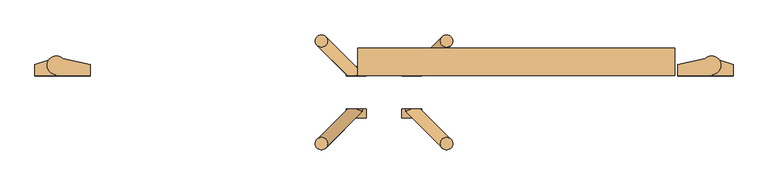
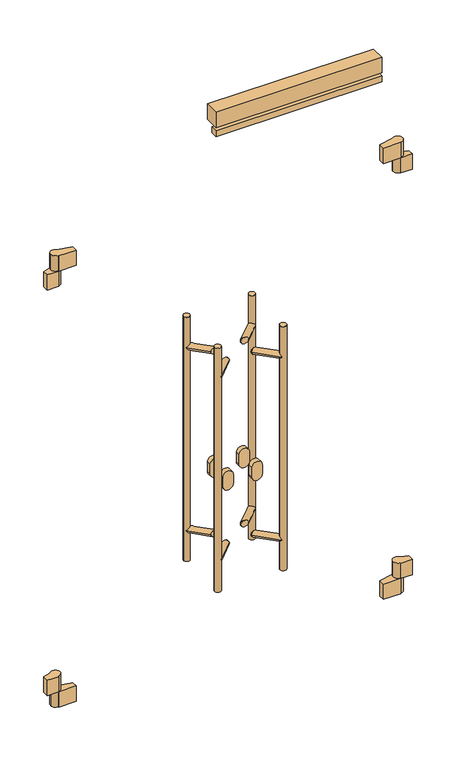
"""IFC4 building model written with IfcOpenShell, lengths in millimetres: door geometry, Alumark_фурнитура двупольной двери S54 : Alumark_фурнитура двупольной двери S54."""

from ifc_helpers import new_model, si_unit, point, frame, frame_2d, origin, place, context, project, spatial, polyline, circle_curve, ellipse_curve, trimmed, segment, composite_curve, outline, extrude, source, transform, mapped, element, save
from ifc_brep_helpers import plane_surface, cylinder_surface, advanced_brep


def door_67dd0984(model_context):
    return source(origin(), model_context, "Body", "SolidModel", [
        advanced_brep(
        [(-63.0, 17.0, 400.0), (-48.0, 2.0, 400.0), (-48.0, 0.0, 400.0), (-13.0, 0.0, 400.0), (-13.0, 18.0, 400.0), (-35.8866516, 25.846852, 400.0), (-103.0, 0.0, 300.0), (-103.0, 18.0, 300.0), (-58.5040029, 27.7082175, 300.0), (-33.0, 17.0, 300.0), (-48.0, 2.0, 300.0), (-48.0, 0.0, 300.0), (-33.0, 17.0, 350.0), (-48.0, 2.0, 350.0), (-63.0, 17.0, 350.0), (-48.0, 2.0, 350.0), (-58.5040029, 27.7082175, 350.0), (-35.8866516, 25.846852, 350.0), (-103.0, 0.0, 350.0), (-48.0, 0.0, 350.0), (-103.0, 18.0, 350.0), (-13.0, 18.0, 350.0), (-13.0, 0.0, 350.0)],
        [
            (0, 1, circle_curve(frame((-48.0, 17.0, 400.0), z_axis=(0.0, 0.0, 1.0), x_axis=(1.0, 0.0, 0.0)), 15.0)),
            (1, 2),
            (2, 3),
            (3, 4),
            (4, 5),
            (5, 0, circle_curve(frame((-48.0, 17.0, 400.0), z_axis=(0.0, 0.0, 1.0), x_axis=(1.0, 0.0, 0.0)), 15.0)),
            (6, 7),
            (7, 8),
            (8, 9, circle_curve(frame((-48.0, 17.0, 300.0), z_axis=(0.0, 0.0, -1.0), x_axis=(1.0, 0.0, 0.0)), 15.0)),
            (9, 10, circle_curve(frame((-48.0, 17.0, 300.0), z_axis=(0.0, 0.0, -1.0), x_axis=(1.0, 0.0, 0.0)), 15.0)),
            (10, 11),
            (11, 6),
            (9, 12),
            (12, 13, circle_curve(frame((-48.0, 17.0, 350.0), z_axis=(0.0, 0.0, -1.0), x_axis=(1.0, 0.0, 0.0)), 15.0)),
            (13, 10),
            (0, 14),
            (14, 15, circle_curve(frame((-48.0, 17.0, 350.0), z_axis=(0.0, 0.0, 1.0), x_axis=(1.0, 0.0, 0.0)), 15.0)),
            (15, 1),
            (8, 16),
            (16, 14, circle_curve(frame((-48.0, 17.0, 350.0), z_axis=(0.0, 0.0, 1.0), x_axis=(1.0, 0.0, 0.0)), 15.0)),
            (5, 17),
            (17, 12, circle_curve(frame((-48.0, 17.0, 350.0), z_axis=(0.0, 0.0, -1.0), x_axis=(1.0, 0.0, 0.0)), 15.0)),
            (18, 19),
            (19, 15),
            (16, 20),
            (20, 18),
            (18, 6),
            (11, 19),
            (13, 19),
            (7, 20),
            (21, 22),
            (22, 19),
            (17, 21),
            (19, 2),
            (22, 3),
            (21, 4),
        ],
        [
            plane_surface(frame((-33.0, 17.0, 400.0), z_axis=(0.0, 0.0, 1.0), x_axis=(0.0, 1.0, 0.0))),
            plane_surface(frame((-33.0, 17.0, 300.0), z_axis=(0.0, 0.0, -1.0), x_axis=(0.0, -1.0, 0.0))),
            cylinder_surface(frame((-48.0, 17.0, 300.0), z_axis=(0.0, 0.0, 1.0), x_axis=(1.0, 0.0, 0.0)), 15.0),
            plane_surface(frame((-48.0, 0.0, 350.0), z_axis=(0.0, 0.0, 1.0), x_axis=(1.0, 0.0, 0.0))),
            plane_surface(frame((-103.0, 0.0, 350.0), z_axis=(0.0, -1.0, 0.0), x_axis=(0.0, 0.0, -1.0))),
            plane_surface(frame((-48.0, 0.0, 350.0), z_axis=(1.0, 0.0, 0.0), x_axis=(0.0, 0.0, -1.0))),
            plane_surface(frame((-48.0, 30.0, 350.0), z_axis=(-0.2131670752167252, 0.9770157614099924, 0.0), x_axis=(0.0, 0.0, -1.0))),
            plane_surface(frame((-103.0, 18.0, 350.0), z_axis=(-1.0, 0.0, 0.0), x_axis=(0.0, 0.0, -1.0))),
            plane_surface(frame((-48.0, 0.0, 350.0), z_axis=(0.0, 0.0, -1.0), x_axis=(0.0, 1.0, 0.0))),
            plane_surface(frame((-48.0, 30.0, 400.0), z_axis=(-1.0, 0.0, 0.0), x_axis=(0.0, 0.0, -1.0))),
            plane_surface(frame((-48.0, 0.0, 400.0), z_axis=(0.0, -1.0, 0.0), x_axis=(0.0, 0.0, -1.0))),
            plane_surface(frame((-13.0, 0.0, 400.0), z_axis=(1.0, 0.0, 0.0), x_axis=(0.0, 0.0, -1.0))),
            plane_surface(frame((-13.0, 18.0, 400.0), z_axis=(0.32432432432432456, 0.9459459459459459, 0.0), x_axis=(0.0, 0.0, -1.0))),
        ],
        [
            (0, [[1, 2, 3, 4, 5, 6]]),
            (1, [[7, 8, 9, 10, 11, 12]]),
            (2, [[-10, 13, 14, 15]]),
            (2, [[16, 17, 18, -1]]),
            (2, [[-9, 19, 20, -16, -6, 21, 22, -13]]),
            (3, [[23, 24, -17, -20, 25, 26]]),
            (4, [[-23, 27, -12, 28]]),
            (5, [[-28, -11, -15, 29]]),
            (6, [[30, -25, -19, -8]]),
            (7, [[-26, -30, -7, -27]]),
            (8, [[31, 32, -29, -14, -22, 33]]),
            (9, [[34, -2, -18, -24]]),
            (10, [[-3, -34, -32, 35]]),
            (11, [[-4, -35, -31, 36]]),
            (12, [[-36, -33, -21, -5]]),
        ],
    ),
        advanced_brep(
        [(-1112.0, 2.0, 400.0), (-1097.0, 17.0, 400.0), (-1124.1133484, 25.846852, 400.0), (-1147.0, 18.0, 400.0), (-1147.0, 0.0, 400.0), (-1112.0, 0.0, 400.0), (-1057.0, 0.0, 300.0), (-1112.0, 0.0, 300.0), (-1112.0, 2.0, 300.0), (-1127.0, 17.0, 300.0), (-1101.4959971, 27.7082175, 300.0), (-1057.0, 18.0, 300.0), (-1112.0, 2.0, 350.0), (-1127.0, 17.0, 350.0), (-1097.0, 17.0, 350.0), (-1112.0, 2.0, 350.0), (-1124.1133484, 25.846852, 350.0), (-1101.4959971, 27.7082175, 350.0), (-1057.0, 0.0, 350.0), (-1057.0, 18.0, 350.0), (-1112.0, 0.0, 350.0), (-1147.0, 0.0, 350.0), (-1147.0, 18.0, 350.0)],
        [
            (0, 1, circle_curve(frame((-1112.0, 17.0, 400.0), z_axis=(0.0, 0.0, 1.0), x_axis=(1.0, 0.0, 0.0)), 15.0)),
            (1, 2, circle_curve(frame((-1112.0, 17.0, 400.0), z_axis=(0.0, 0.0, 1.0), x_axis=(1.0, 0.0, 0.0)), 15.0)),
            (2, 3),
            (3, 4),
            (4, 5),
            (5, 0),
            (6, 7),
            (7, 8),
            (8, 9, circle_curve(frame((-1112.0, 17.0, 300.0), z_axis=(0.0, 0.0, -1.0), x_axis=(1.0, 0.0, 0.0)), 15.0)),
            (9, 10, circle_curve(frame((-1112.0, 17.0, 300.0), z_axis=(0.0, 0.0, -1.0), x_axis=(1.0, 0.0, 0.0)), 15.0)),
            (10, 11),
            (11, 6),
            (8, 12),
            (12, 13, circle_curve(frame((-1112.0, 17.0, 350.0), z_axis=(0.0, 0.0, -1.0), x_axis=(1.0, 0.0, 0.0)), 15.0)),
            (13, 9),
            (14, 1),
            (0, 15),
            (15, 14, circle_curve(frame((-1112.0, 17.0, 350.0), z_axis=(0.0, 0.0, 1.0), x_axis=(1.0, 0.0, 0.0)), 15.0)),
            (13, 16, circle_curve(frame((-1112.0, 17.0, 350.0), z_axis=(0.0, 0.0, -1.0), x_axis=(1.0, 0.0, 0.0)), 15.0)),
            (16, 2),
            (14, 17, circle_curve(frame((-1112.0, 17.0, 350.0), z_axis=(0.0, 0.0, 1.0), x_axis=(1.0, 0.0, 0.0)), 15.0)),
            (17, 10),
            (18, 19),
            (19, 17),
            (15, 20),
            (20, 18),
            (18, 6),
            (11, 19),
            (7, 20),
            (20, 12),
            (21, 22),
            (22, 16),
            (20, 21),
            (4, 21),
            (20, 5),
            (22, 3),
        ],
        [
            plane_surface(frame((-33.0, 17.0, 400.0), z_axis=(0.0, 0.0, 1.0), x_axis=(0.0, 1.0, 0.0))),
            plane_surface(frame((-33.0, 17.0, 300.0), z_axis=(0.0, 0.0, -1.0), x_axis=(0.0, -1.0, 0.0))),
            cylinder_surface(frame((-1112.0, 17.0, 0.0), z_axis=(0.0, 0.0, 1.0), x_axis=(1.0, 0.0, 0.0)), 15.0),
            plane_surface(frame((-48.0, 0.0, 350.0), z_axis=(0.0, 0.0, 1.0), x_axis=(1.0, 0.0, 0.0))),
            plane_surface(frame((-1057.0, 0.0, 350.0), z_axis=(1.0, 0.0, 0.0), x_axis=(0.0, 0.0, -1.0))),
            plane_surface(frame((-1057.0, 18.0, 350.0), z_axis=(0.2131670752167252, 0.9770157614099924, 0.0), x_axis=(0.0, 0.0, -1.0))),
            plane_surface(frame((-1112.0, 30.0, 350.0), z_axis=(-1.0, 0.0, 0.0), x_axis=(0.0, 0.0, -1.0))),
            plane_surface(frame((-1112.0, 0.0, 350.0), z_axis=(0.0, -1.0, 0.0), x_axis=(0.0, 0.0, -1.0))),
            plane_surface(frame((-48.0, 0.0, 350.0), z_axis=(0.0, 0.0, -1.0), x_axis=(0.0, 1.0, 0.0))),
            plane_surface(frame((-1147.0, 0.0, 400.0), z_axis=(0.0, -1.0, 0.0), x_axis=(0.0, 0.0, -1.0))),
            plane_surface(frame((-1112.0, 0.0, 400.0), z_axis=(1.0, 0.0, 0.0), x_axis=(0.0, 0.0, -1.0))),
            plane_surface(frame((-1112.0, 30.0, 400.0), z_axis=(-0.3243243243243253, 0.9459459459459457, 0.0), x_axis=(0.0, 0.0, -1.0))),
            plane_surface(frame((-1147.0, 18.0, 400.0), z_axis=(-1.0, 0.0, 0.0), x_axis=(0.0, 0.0, -1.0))),
        ],
        [
            (0, [[1, 2, 3, 4, 5, 6]]),
            (1, [[7, 8, 9, 10, 11, 12]]),
            (2, [[-9, 13, 14, 15]]),
            (2, [[16, -1, 17, 18]]),
            (2, [[-10, -15, 19, 20, -2, -16, 21, 22]]),
            (3, [[23, 24, -21, -18, 25, 26]]),
            (4, [[-23, 27, -12, 28]]),
            (5, [[-28, -11, -22, -24]]),
            (6, [[29, 30, -13, -8]]),
            (7, [[-26, -29, -7, -27]]),
            (8, [[31, 32, -19, -14, -30, 33]]),
            (9, [[-5, 34, -33, 35]]),
            (10, [[-35, -25, -17, -6]]),
            (11, [[36, -3, -20, -32]]),
            (12, [[-4, -36, -31, -34]]),
        ],
    ),
        advanced_brep(
        [(-103.0, 0.0, 1780.0), (-48.0, 0.0, 1780.0), (-48.0, 2.0, 1780.0), (-33.0, 17.0, 1780.0), (-58.5040029, 27.7082175, 1780.0), (-103.0, 18.0, 1780.0), (-63.0, 17.0, 1680.0), (-35.8866516, 25.846852, 1680.0), (-13.0, 18.0, 1680.0), (-13.0, 0.0, 1680.0), (-48.0, 0.0, 1680.0), (-48.0, 2.0, 1680.0), (-48.0, 2.0, 1730.0), (-33.0, 17.0, 1730.0), (-63.0, 17.0, 1730.0), (-48.0, 2.0, 1730.0), (-35.8866516, 25.846852, 1730.0), (-58.5040029, 27.7082175, 1730.0), (-103.0, 0.0, 1730.0), (-103.0, 18.0, 1730.0), (-48.0, 0.0, 1730.0), (-13.0, 0.0, 1730.0), (-13.0, 18.0, 1730.0)],
        [
            (0, 1),
            (1, 2),
            (2, 3, circle_curve(frame((-48.0, 17.0, 1780.0), z_axis=(0.0, 0.0, 1.0), x_axis=(1.0, 0.0, 0.0)), 15.0)),
            (3, 4, circle_curve(frame((-48.0, 17.0, 1780.0), z_axis=(0.0, 0.0, 1.0), x_axis=(1.0, 0.0, 0.0)), 15.0)),
            (4, 5),
            (5, 0),
            (6, 7, circle_curve(frame((-48.0, 17.0, 1680.0), z_axis=(0.0, 0.0, -1.0), x_axis=(1.0, 0.0, 0.0)), 15.0)),
            (7, 8),
            (8, 9),
            (9, 10),
            (10, 11),
            (11, 6, circle_curve(frame((-48.0, 17.0, 1680.0), z_axis=(0.0, 0.0, -1.0), x_axis=(1.0, 0.0, 0.0)), 15.0)),
            (2, 12),
            (12, 13, circle_curve(frame((-48.0, 17.0, 1730.0), z_axis=(0.0, 0.0, 1.0), x_axis=(1.0, 0.0, 0.0)), 15.0)),
            (13, 3),
            (14, 6),
            (11, 15),
            (15, 14, circle_curve(frame((-48.0, 17.0, 1730.0), z_axis=(0.0, 0.0, -1.0), x_axis=(1.0, 0.0, 0.0)), 15.0)),
            (13, 16, circle_curve(frame((-48.0, 17.0, 1730.0), z_axis=(0.0, 0.0, 1.0), x_axis=(1.0, 0.0, 0.0)), 15.0)),
            (16, 7),
            (14, 17, circle_curve(frame((-48.0, 17.0, 1730.0), z_axis=(0.0, 0.0, -1.0), x_axis=(1.0, 0.0, 0.0)), 15.0)),
            (17, 4),
            (18, 19),
            (19, 17),
            (15, 20),
            (20, 18),
            (20, 1),
            (0, 18),
            (20, 12),
            (19, 5),
            (20, 21),
            (21, 22),
            (22, 16),
            (10, 20),
            (9, 21),
            (8, 22),
        ],
        [
            plane_surface(frame((-33.0, 17.0, 1780.0), z_axis=(0.0, 0.0, 1.0), x_axis=(0.0, 1.0, 0.0))),
            plane_surface(frame((-33.0, 17.0, 1680.0), z_axis=(0.0, 0.0, -1.0), x_axis=(0.0, -1.0, 0.0))),
            cylinder_surface(frame((-48.0, 17.0, 1680.0), z_axis=(0.0, 0.0, 1.0), x_axis=(1.0, 0.0, 0.0)), 15.0),
            plane_surface(frame((-48.0, 0.0, 1730.0), z_axis=(0.0, 0.0, -1.0), x_axis=(-1.0, 0.0, 0.0))),
            plane_surface(frame((-103.0, 0.0, 1780.0), z_axis=(0.0, -1.0, 0.0), x_axis=(0.0, 0.0, -1.0))),
            plane_surface(frame((-48.0, 0.0, 1780.0), z_axis=(1.0, 0.0, 0.0), x_axis=(0.0, 0.0, -1.0))),
            plane_surface(frame((-48.0, 30.0, 1780.0), z_axis=(-0.2131670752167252, 0.9770157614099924, 0.0), x_axis=(0.0, 0.0, -1.0))),
            plane_surface(frame((-103.0, 18.0, 1780.0), z_axis=(-1.0, 0.0, 0.0), x_axis=(0.0, 0.0, -1.0))),
            plane_surface(frame((-48.0, 0.0, 1730.0), z_axis=(0.0, 0.0, 1.0), x_axis=(0.0, -1.0, 0.0))),
            plane_surface(frame((-48.0, 30.0, 1730.0), z_axis=(-1.0, 0.0, 0.0), x_axis=(0.0, 0.0, -1.0))),
            plane_surface(frame((-48.0, 0.0, 1730.0), z_axis=(0.0, -1.0, 0.0), x_axis=(0.0, 0.0, -1.0))),
            plane_surface(frame((-13.0, 0.0, 1730.0), z_axis=(1.0, 0.0, 0.0), x_axis=(0.0, 0.0, -1.0))),
            plane_surface(frame((-13.0, 18.0, 1730.0), z_axis=(0.3243243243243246, 0.9459459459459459, 0.0), x_axis=(0.0, 0.0, -1.0))),
        ],
        [
            (0, [[1, 2, 3, 4, 5, 6]]),
            (1, [[7, 8, 9, 10, 11, 12]]),
            (2, [[-3, 13, 14, 15]]),
            (2, [[16, -12, 17, 18]]),
            (2, [[-4, -15, 19, 20, -7, -16, 21, 22]]),
            (3, [[23, 24, -21, -18, 25, 26]]),
            (4, [[-26, 27, -1, 28]]),
            (5, [[-27, 29, -13, -2]]),
            (6, [[30, -5, -22, -24]]),
            (7, [[-23, -28, -6, -30]]),
            (8, [[31, 32, 33, -19, -14, -29]]),
            (9, [[34, -25, -17, -11]]),
            (10, [[-10, 35, -31, -34]]),
            (11, [[-9, 36, -32, -35]]),
            (12, [[-36, -8, -20, -33]]),
        ],
    ),
        advanced_brep(
        [(-1057.0, 0.0, 1780.0), (-1057.0, 18.0, 1780.0), (-1101.4959971, 27.7082175, 1780.0), (-1127.0, 17.0, 1780.0), (-1112.0, 2.0, 1780.0), (-1112.0, 0.0, 1780.0), (-1124.1133484, 25.846852, 1680.0), (-1097.0, 17.0, 1680.0), (-1112.0, 2.0, 1680.0), (-1112.0, 0.0, 1680.0), (-1147.0, 0.0, 1680.0), (-1147.0, 18.0, 1680.0), (-1127.0, 17.0, 1730.0), (-1112.0, 2.0, 1730.0), (-1097.0, 17.0, 1730.0), (-1112.0, 2.0, 1730.0), (-1101.4959971, 27.7082175, 1730.0), (-1124.1133484, 25.846852, 1730.0), (-1057.0, 0.0, 1730.0), (-1112.0, 0.0, 1730.0), (-1057.0, 18.0, 1730.0), (-1147.0, 0.0, 1730.0), (-1147.0, 18.0, 1730.0)],
        [
            (0, 1),
            (1, 2),
            (2, 3, circle_curve(frame((-1112.0, 17.0, 1780.0), z_axis=(0.0, 0.0, 1.0), x_axis=(1.0, 0.0, 0.0)), 15.0)),
            (3, 4, circle_curve(frame((-1112.0, 17.0, 1780.0), z_axis=(0.0, 0.0, 1.0), x_axis=(1.0, 0.0, 0.0)), 15.0)),
            (4, 5),
            (5, 0),
            (6, 7, circle_curve(frame((-1112.0, 17.0, 1680.0), z_axis=(0.0, 0.0, -1.0), x_axis=(1.0, 0.0, 0.0)), 15.0)),
            (7, 8, circle_curve(frame((-1112.0, 17.0, 1680.0), z_axis=(0.0, 0.0, -1.0), x_axis=(1.0, 0.0, 0.0)), 15.0)),
            (8, 9),
            (9, 10),
            (10, 11),
            (11, 6),
            (3, 12),
            (12, 13, circle_curve(frame((-1112.0, 17.0, 1730.0), z_axis=(0.0, 0.0, 1.0), x_axis=(1.0, 0.0, 0.0)), 15.0)),
            (13, 4),
            (7, 14),
            (14, 15, circle_curve(frame((-1112.0, 17.0, 1730.0), z_axis=(0.0, 0.0, -1.0), x_axis=(1.0, 0.0, 0.0)), 15.0)),
            (15, 8),
            (2, 16),
            (16, 14, circle_curve(frame((-1112.0, 17.0, 1730.0), z_axis=(0.0, 0.0, -1.0), x_axis=(1.0, 0.0, 0.0)), 15.0)),
            (6, 17),
            (17, 12, circle_curve(frame((-1112.0, 17.0, 1730.0), z_axis=(0.0, 0.0, 1.0), x_axis=(1.0, 0.0, 0.0)), 15.0)),
            (18, 19),
            (19, 15),
            (16, 20),
            (20, 18),
            (20, 1),
            (0, 18),
            (19, 5),
            (13, 19),
            (21, 19),
            (17, 22),
            (22, 21),
            (9, 19),
            (21, 10),
            (11, 22),
        ],
        [
            plane_surface(frame((-33.0, 17.0, 1780.0), z_axis=(0.0, 0.0, 1.0), x_axis=(0.0, 1.0, 0.0))),
            plane_surface(frame((-33.0, 17.0, 1680.0), z_axis=(0.0, 0.0, -1.0), x_axis=(0.0, -1.0, 0.0))),
            cylinder_surface(frame((-1112.0, 17.0, 0.0), z_axis=(0.0, 0.0, 1.0), x_axis=(1.0, 0.0, 0.0)), 15.0),
            plane_surface(frame((-48.0, 0.0, 1730.0), z_axis=(0.0, 0.0, -1.0), x_axis=(-1.0, 0.0, 0.0))),
            plane_surface(frame((-1057.0, 0.0, 1780.0), z_axis=(1.0, 0.0, 0.0), x_axis=(0.0, 0.0, -1.0))),
            plane_surface(frame((-1057.0, 18.0, 1780.0), z_axis=(0.21316707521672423, 0.9770157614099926, 0.0), x_axis=(0.0, 0.0, -1.0))),
            plane_surface(frame((-1112.0, 30.0, 1780.0), z_axis=(-1.0, 0.0, 0.0), x_axis=(0.0, 0.0, -1.0))),
            plane_surface(frame((-1112.0, 0.0, 1780.0), z_axis=(0.0, -1.0, 0.0), x_axis=(0.0, 0.0, -1.0))),
            plane_surface(frame((-48.0, 0.0, 1730.0), z_axis=(0.0, 0.0, 1.0), x_axis=(0.0, -1.0, 0.0))),
            plane_surface(frame((-1147.0, 0.0, 1730.0), z_axis=(0.0, -1.0, 0.0), x_axis=(0.0, 0.0, -1.0))),
            plane_surface(frame((-1112.0, 0.0, 1730.0), z_axis=(1.0, 0.0, 0.0), x_axis=(0.0, 0.0, -1.0))),
            plane_surface(frame((-1112.0, 30.0, 1730.0), z_axis=(-0.32432432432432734, 0.9459459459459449, 0.0), x_axis=(0.0, 0.0, -1.0))),
            plane_surface(frame((-1147.0, 18.0, 1730.0), z_axis=(-1.0, 0.0, 0.0), x_axis=(0.0, 0.0, -1.0))),
        ],
        [
            (0, [[1, 2, 3, 4, 5, 6]]),
            (1, [[7, 8, 9, 10, 11, 12]]),
            (2, [[-4, 13, 14, 15]]),
            (2, [[16, 17, 18, -8]]),
            (2, [[-3, 19, 20, -16, -7, 21, 22, -13]]),
            (3, [[23, 24, -17, -20, 25, 26]]),
            (4, [[-26, 27, -1, 28]]),
            (5, [[-27, -25, -19, -2]]),
            (6, [[29, -5, -15, 30]]),
            (7, [[-23, -28, -6, -29]]),
            (8, [[31, -30, -14, -22, 32, 33]]),
            (9, [[-10, 34, -31, 35]]),
            (10, [[-34, -9, -18, -24]]),
            (11, [[36, -32, -21, -12]]),
            (12, [[-11, -35, -33, -36]]),
        ],
    ),
        extrude(outline(polyline([(-108.0, 0.0), (-623.0, 0.0), (-623.0, 20.0), (-108.0, 20.0), (-108.0, 0.0)])), frame((0.0, 0.0, 2000.0), z_axis=(0.0, 0.0, 1.0), x_axis=(1.0, 0.0, 0.0)), (0.0, 0.0, 1.0), 20.0),
        extrude(outline(polyline([(-108.0, 0.0), (-623.0, 0.0), (-623.0, 45.0), (-108.0, 45.0), (-108.0, 0.0)])), frame((0.0, 0.0, 2030.0), z_axis=(0.0, 0.0, 1.0), x_axis=(1.0, 0.0, 0.0)), (0.0, 0.0, 1.0), 50.0),
        advanced_brep(
        [(-488.4314575, 56.5685425, 1400.0), (-468.4314575, 56.5685425, 1400.0), (-488.4314575, 56.5685425, 600.0), (-468.4314575, 56.5685425, 600.0), (-535.0, 0.0, 710.0), (-545.0, 0.0, 700.0), (-535.0, 0.0, 690.0), (-520.8578644, 0.0, 700.0), (-535.0, 0.0, 1310.0), (-545.0, 0.0, 1300.0), (-535.0, 0.0, 1290.0), (-520.8578644, 0.0, 1300.0), (-545.0, 4.1421356, 700.0), (-545.0, 4.1421356, 1300.0), (-485.5025253, 63.6396103, 700.0), (-471.3603897, 49.4974747, 700.0), (-488.4314575, 56.5685425, 707.0710678), (-488.4314575, 56.5685425, 692.9289322), (-485.5025253, 63.6396103, 1300.0), (-471.3603897, 49.4974747, 1300.0), (-488.4314575, 56.5685425, 1307.0710678), (-488.4314575, 56.5685425, 1292.9289322)],
        [
            (0, 1, circle_curve(frame((-478.4314575, 56.5685425, 1400.0), z_axis=(0.0, 0.0, 1.0), x_axis=(1.0, 0.0, 0.0)), 10.0)),
            (1, 0, circle_curve(frame((-478.4314575, 56.5685425, 1400.0), z_axis=(0.0, 0.0, 1.0), x_axis=(1.0, 0.0, 0.0)), 10.0)),
            (2, 3, circle_curve(frame((-478.4314575, 56.5685425, 600.0), z_axis=(0.0, 0.0, -1.0), x_axis=(1.0, 0.0, 0.0)), 10.0)),
            (3, 2, circle_curve(frame((-478.4314575, 56.5685425, 600.0), z_axis=(0.0, 0.0, -1.0), x_axis=(1.0, 0.0, 0.0)), 10.0)),
            (4, 5, circle_curve(frame((-535.0, 0.0, 700.0), z_axis=(0.0, -1.0, 0.0), x_axis=(-1.0, 0.0, 0.0)), 10.0)),
            (5, 6, circle_curve(frame((-535.0, 0.0, 700.0), z_axis=(0.0, -1.0, 0.0), x_axis=(-1.0, 0.0, 0.0)), 10.0)),
            (6, 7, ellipse_curve(frame((-535.0, 0.0, 700.0), z_axis=(0.0, -1.0, 0.0), x_axis=(-1.0, 0.0, 0.0)), 14.1421356, 10.0)),
            (7, 4, ellipse_curve(frame((-535.0, 0.0, 700.0), z_axis=(0.0, -1.0, 0.0), x_axis=(-1.0, 0.0, 0.0)), 14.1421356, 10.0)),
            (8, 9, circle_curve(frame((-535.0, 0.0, 1300.0), z_axis=(0.0, -1.0, 0.0), x_axis=(-1.0, 0.0, 0.0)), 10.0)),
            (9, 10, circle_curve(frame((-535.0, 0.0, 1300.0), z_axis=(0.0, -1.0, 0.0), x_axis=(-1.0, 0.0, 0.0)), 10.0)),
            (10, 11, ellipse_curve(frame((-535.0, 0.0, 1300.0), z_axis=(0.0, -1.0, 0.0), x_axis=(-1.0, 0.0, 0.0)), 14.1421356, 10.0)),
            (11, 8, ellipse_curve(frame((-535.0, 0.0, 1300.0), z_axis=(0.0, -1.0, 0.0), x_axis=(-1.0, 0.0, 0.0)), 14.1421356, 10.0)),
            (4, 12, ellipse_curve(frame((-535.0, 0.0, 700.0), z_axis=(-0.38268343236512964, -0.9238795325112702, 0.0), x_axis=(0.9238795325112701, -0.3826834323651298, 0.0)), 10.823922, 10.0)),
            (12, 5),
            (12, 6, ellipse_curve(frame((-535.0, 0.0, 700.0), z_axis=(-0.38268343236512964, -0.9238795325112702, 0.0), x_axis=(0.9238795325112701, -0.3826834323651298, 0.0)), 10.823922, 10.0)),
            (8, 13, ellipse_curve(frame((-535.0, 0.0, 1300.0), z_axis=(-0.38268343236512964, -0.9238795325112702, 0.0), x_axis=(0.9238795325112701, -0.3826834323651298, 0.0)), 10.823922, 10.0)),
            (13, 9),
            (13, 10, ellipse_curve(frame((-535.0, 0.0, 1300.0), z_axis=(-0.38268343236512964, -0.9238795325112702, 0.0), x_axis=(0.9238795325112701, -0.3826834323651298, 0.0)), 10.823922, 10.0)),
            (14, 12),
            (7, 15),
            (15, 16, ellipse_curve(frame((-478.4314575, 56.5685425, 700.0), z_axis=(-0.5000000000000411, -0.49999999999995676, -0.707106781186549), x_axis=(-0.5000000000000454, -0.49999999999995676, 0.7071067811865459)), 14.1421356, 10.0)),
            (16, 14, ellipse_curve(frame((-478.4314575, 56.5685425, 700.0), z_axis=(-0.5000000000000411, -0.49999999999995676, -0.707106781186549), x_axis=(-0.5000000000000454, -0.49999999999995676, 0.7071067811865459)), 14.1421356, 10.0)),
            (14, 17, ellipse_curve(frame((-478.4314575, 56.5685425, 700.0), z_axis=(-0.5000000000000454, -0.49999999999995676, 0.7071067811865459), x_axis=(-0.5000000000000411, -0.49999999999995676, -0.7071067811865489)), 14.1421356, 10.0)),
            (17, 15, ellipse_curve(frame((-478.4314575, 56.5685425, 700.0), z_axis=(-0.5000000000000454, -0.49999999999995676, 0.7071067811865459), x_axis=(-0.5000000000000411, -0.49999999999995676, -0.7071067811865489)), 14.1421356, 10.0)),
            (18, 13),
            (11, 19),
            (19, 20, ellipse_curve(frame((-478.4314575, 56.5685425, 1300.0), z_axis=(-0.5000000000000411, -0.49999999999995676, -0.707106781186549), x_axis=(-0.5000000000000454, -0.49999999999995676, 0.7071067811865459)), 14.1421356, 10.0)),
            (20, 18, ellipse_curve(frame((-478.4314575, 56.5685425, 1300.0), z_axis=(-0.5000000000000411, -0.49999999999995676, -0.707106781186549), x_axis=(-0.5000000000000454, -0.49999999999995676, 0.7071067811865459)), 14.1421356, 10.0)),
            (18, 21, ellipse_curve(frame((-478.4314575, 56.5685425, 1300.0), z_axis=(-0.5000000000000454, -0.49999999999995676, 0.7071067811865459), x_axis=(-0.5000000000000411, -0.49999999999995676, -0.7071067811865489)), 14.1421356, 10.0)),
            (21, 19, ellipse_curve(frame((-478.4314575, 56.5685425, 1300.0), z_axis=(-0.5000000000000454, -0.49999999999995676, 0.7071067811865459), x_axis=(-0.5000000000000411, -0.49999999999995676, -0.7071067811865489)), 14.1421356, 10.0)),
            (0, 20),
            (21, 16),
            (17, 2),
            (3, 1),
        ],
        [
            plane_surface(frame((-468.4314575, 56.5685425, 1400.0), z_axis=(0.0, 0.0, 1.0), x_axis=(0.0, 1.0, 0.0))),
            plane_surface(frame((-468.4314575, 56.5685425, 600.0), z_axis=(0.0, 0.0, -1.0), x_axis=(0.0, -1.0, 0.0))),
            plane_surface(frame((-675.0, 0.0, 600.0), z_axis=(0.0, -1.0, 0.0), x_axis=(0.0, 0.0, 1.0))),
            cylinder_surface(frame((-535.0, -54.0, 700.0), z_axis=(0.0, -1.0, 0.0), x_axis=(-1.0, 0.0, 0.0)), 10.0),
            cylinder_surface(frame((-535.0, -54.0, 1300.0), z_axis=(0.0, -1.0, 0.0), x_axis=(-1.0, 0.0, 0.0)), 10.0),
            cylinder_surface(frame((-535.0, 0.0, 700.0), z_axis=(-0.7071067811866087, -0.7071067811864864, 0.0), x_axis=(-0.7071067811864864, 0.7071067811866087, 0.0)), 10.0),
            cylinder_surface(frame((-535.0, 0.0, 1300.0), z_axis=(-0.7071067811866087, -0.7071067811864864, 0.0), x_axis=(-0.7071067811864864, 0.7071067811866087, 0.0)), 10.0),
            cylinder_surface(frame((-478.4314575, 56.5685425, 600.0), z_axis=(0.0, 0.0, 1.0), x_axis=(1.0, 0.0, 0.0)), 10.0),
        ],
        [
            (0, [[1, 2]]),
            (1, [[3, 4]]),
            (2, [[5, 6, 7, 8]]),
            (2, [[9, 10, 11, 12]]),
            (3, [[13, 14, -5]]),
            (3, [[-14, 15, -6]]),
            (4, [[16, 17, -9]]),
            (4, [[-17, 18, -10]]),
            (5, [[19, -13, -8, 20, 21, 22]]),
            (5, [[-19, 23, 24, -20, -7, -15]]),
            (6, [[25, -16, -12, 26, 27, 28]]),
            (6, [[-25, 29, 30, -26, -11, -18]]),
            (7, [[-1, 31, -27, -30, 32, -21, -24, 33, -4, 34]]),
            (7, [[-2, -34, -3, -33, -23, -22, -32, -29, -28, -31]]),
        ],
    ),
        advanced_brep(
        [(-488.4314575, -110.5685425, 1400.0), (-468.4314575, -110.5685425, 1400.0), (-488.4314575, -110.5685425, 600.0), (-468.4314575, -110.5685425, 600.0), (-535.0, -54.0, 710.0), (-520.8578644, -54.0, 700.0), (-535.0, -54.0, 690.0), (-545.0, -54.0, 700.0), (-535.0, -54.0, 1310.0), (-520.8578644, -54.0, 1300.0), (-535.0, -54.0, 1290.0), (-545.0, -54.0, 1300.0), (-545.0, -58.1421356, 700.0), (-485.5025253, -117.6396103, 700.0), (-488.4314575, -110.5685425, 707.0710678), (-471.3603897, -103.4974747, 700.0), (-488.4314575, -110.5685425, 692.9289322), (-545.0, -58.1421356, 1300.0), (-485.5025253, -117.6396103, 1300.0), (-488.4314575, -110.5685425, 1307.0710678), (-471.3603897, -103.4974747, 1300.0), (-488.4314575, -110.5685425, 1292.9289322)],
        [
            (0, 1, circle_curve(frame((-478.4314575, -110.5685425, 1400.0), z_axis=(0.0, 0.0, 1.0), x_axis=(1.0, 0.0, 0.0)), 10.0)),
            (1, 0, circle_curve(frame((-478.4314575, -110.5685425, 1400.0), z_axis=(0.0, 0.0, 1.0), x_axis=(1.0, 0.0, 0.0)), 10.0)),
            (2, 3, circle_curve(frame((-478.4314575, -110.5685425, 600.0), z_axis=(0.0, 0.0, -1.0), x_axis=(1.0, 0.0, 0.0)), 10.0)),
            (3, 2, circle_curve(frame((-478.4314575, -110.5685425, 600.0), z_axis=(0.0, 0.0, -1.0), x_axis=(1.0, 0.0, 0.0)), 10.0)),
            (4, 5, ellipse_curve(frame((-535.0, -54.0, 700.0), z_axis=(0.0, 1.0, 0.0), x_axis=(1.0, 0.0, 0.0)), 14.1421356, 10.0)),
            (5, 6, ellipse_curve(frame((-535.0, -54.0, 700.0), z_axis=(0.0, 1.0, 0.0), x_axis=(1.0, 0.0, 0.0)), 14.1421356, 10.0)),
            (6, 7, circle_curve(frame((-535.0, -54.0, 700.0), z_axis=(0.0, 1.0, 0.0), x_axis=(-1.0, 0.0, 0.0)), 10.0)),
            (7, 4, circle_curve(frame((-535.0, -54.0, 700.0), z_axis=(0.0, 1.0, 0.0), x_axis=(-1.0, 0.0, 0.0)), 10.0)),
            (8, 9, ellipse_curve(frame((-535.0, -54.0, 1300.0), z_axis=(0.0, 1.0, 0.0), x_axis=(1.0, 0.0, 0.0)), 14.1421356, 10.0)),
            (9, 10, ellipse_curve(frame((-535.0, -54.0, 1300.0), z_axis=(0.0, 1.0, 0.0), x_axis=(1.0, 0.0, 0.0)), 14.1421356, 10.0)),
            (10, 11, circle_curve(frame((-535.0, -54.0, 1300.0), z_axis=(0.0, 1.0, 0.0), x_axis=(-1.0, 0.0, 0.0)), 10.0)),
            (11, 8, circle_curve(frame((-535.0, -54.0, 1300.0), z_axis=(0.0, 1.0, 0.0), x_axis=(-1.0, 0.0, 0.0)), 10.0)),
            (12, 13),
            (13, 14, ellipse_curve(frame((-478.4314575, -110.5685425, 700.0), z_axis=(-0.5000000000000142, 0.4999999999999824, -0.7071067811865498), x_axis=(0.5000000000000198, -0.49999999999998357, -0.707106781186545)), 14.1421356, 10.0)),
            (14, 15, ellipse_curve(frame((-478.4314575, -110.5685425, 700.0), z_axis=(-0.5000000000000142, 0.4999999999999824, -0.7071067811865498), x_axis=(0.5000000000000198, -0.49999999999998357, -0.707106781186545)), 14.1421356, 10.0)),
            (15, 5),
            (4, 12, ellipse_curve(frame((-535.0, -54.0, 700.0), z_axis=(0.3826834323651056, -0.9238795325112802, 0.0), x_axis=(0.9238795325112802, 0.38268343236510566, 0.0)), 10.823922, 10.0)),
            (12, 6, ellipse_curve(frame((-535.0, -54.0, 700.0), z_axis=(0.3826834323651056, -0.9238795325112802, 0.0), x_axis=(0.9238795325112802, 0.38268343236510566, 0.0)), 10.823922, 10.0)),
            (15, 16, ellipse_curve(frame((-478.4314575, -110.5685425, 700.0), z_axis=(-0.5000000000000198, 0.49999999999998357, 0.7071067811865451), x_axis=(0.5000000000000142, -0.4999999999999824, 0.7071067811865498)), 14.1421356, 10.0)),
            (16, 13, ellipse_curve(frame((-478.4314575, -110.5685425, 700.0), z_axis=(-0.5000000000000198, 0.49999999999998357, 0.7071067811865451), x_axis=(0.5000000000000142, -0.4999999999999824, 0.7071067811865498)), 14.1421356, 10.0)),
            (17, 18),
            (18, 19, ellipse_curve(frame((-478.4314575, -110.5685425, 1300.0), z_axis=(-0.5000000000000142, 0.4999999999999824, -0.7071067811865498), x_axis=(0.5000000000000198, -0.49999999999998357, -0.707106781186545)), 14.1421356, 10.0)),
            (19, 20, ellipse_curve(frame((-478.4314575, -110.5685425, 1300.0), z_axis=(-0.5000000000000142, 0.4999999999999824, -0.7071067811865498), x_axis=(0.5000000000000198, -0.49999999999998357, -0.707106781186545)), 14.1421356, 10.0)),
            (20, 9),
            (8, 17, ellipse_curve(frame((-535.0, -54.0, 1300.0), z_axis=(0.3826834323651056, -0.9238795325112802, 0.0), x_axis=(0.9238795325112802, 0.38268343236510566, 0.0)), 10.823922, 10.0)),
            (17, 10, ellipse_curve(frame((-535.0, -54.0, 1300.0), z_axis=(0.3826834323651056, -0.9238795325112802, 0.0), x_axis=(0.9238795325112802, 0.38268343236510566, 0.0)), 10.823922, 10.0)),
            (20, 21, ellipse_curve(frame((-478.4314575, -110.5685425, 1300.0), z_axis=(-0.5000000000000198, 0.49999999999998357, 0.7071067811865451), x_axis=(0.5000000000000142, -0.4999999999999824, 0.7071067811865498)), 14.1421356, 10.0)),
            (21, 18, ellipse_curve(frame((-478.4314575, -110.5685425, 1300.0), z_axis=(-0.5000000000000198, 0.49999999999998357, 0.7071067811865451), x_axis=(0.5000000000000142, -0.4999999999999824, 0.7071067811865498)), 14.1421356, 10.0)),
            (7, 12),
            (11, 17),
            (0, 19),
            (21, 14),
            (16, 2),
            (3, 1),
        ],
        [
            plane_surface(frame((-468.4314575, 56.5685425, 1400.0), z_axis=(0.0, 0.0, 1.0), x_axis=(0.0, 1.0, 0.0))),
            plane_surface(frame((-468.4314575, 56.5685425, 600.0), z_axis=(0.0, 0.0, -1.0), x_axis=(0.0, -1.0, 0.0))),
            plane_surface(frame((-485.0, -54.0, 600.0), z_axis=(0.0, 1.0, 0.0), x_axis=(0.0, 0.0, 1.0))),
            cylinder_surface(frame((-478.4314575, -110.5685425, 700.0), z_axis=(0.7071067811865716, -0.7071067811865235, 0.0), x_axis=(-0.7071067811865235, -0.7071067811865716, 0.0)), 10.0),
            cylinder_surface(frame((-478.4314575, -110.5685425, 1300.0), z_axis=(0.7071067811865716, -0.7071067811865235, 0.0), x_axis=(-0.7071067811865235, -0.7071067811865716, 0.0)), 10.0),
            cylinder_surface(frame((-535.0, -54.0, 700.0), z_axis=(0.0, -1.0, 0.0), x_axis=(-1.0, 0.0, 0.0)), 10.0),
            cylinder_surface(frame((-535.0, -54.0, 1300.0), z_axis=(0.0, -1.0, 0.0), x_axis=(-1.0, 0.0, 0.0)), 10.0),
            cylinder_surface(frame((-478.4314575, -110.5685425, 1000.0), z_axis=(0.0, 0.0, 1.0), x_axis=(1.0, 0.0, 0.0)), 10.0),
        ],
        [
            (0, [[1, 2]]),
            (1, [[3, 4]]),
            (2, [[5, 6, 7, 8]]),
            (2, [[9, 10, 11, 12]]),
            (3, [[13, 14, 15, 16, -5, 17]]),
            (3, [[-13, 18, -6, -16, 19, 20]]),
            (4, [[21, 22, 23, 24, -9, 25]]),
            (4, [[-21, 26, -10, -24, 27, 28]]),
            (5, [[-17, -8, 29]]),
            (5, [[-18, -29, -7]]),
            (6, [[-25, -12, 30]]),
            (6, [[-26, -30, -11]]),
            (7, [[-1, 31, -22, -28, 32, -14, -20, 33, -4, 34]]),
            (7, [[-2, -34, -3, -33, -19, -15, -32, -27, -23, -31]]),
        ],
    ),
        advanced_brep(
        [(-691.5685425, 56.5685425, 1400.0), (-671.5685425, 56.5685425, 1400.0), (-691.5685425, 56.5685425, 600.0), (-671.5685425, 56.5685425, 600.0), (-625.0, 0.0, 690.0), (-615.0, 0.0, 700.0), (-625.0, 0.0, 710.0), (-639.1421356, 0.0, 700.0), (-625.0, 0.0, 1290.0), (-615.0, 0.0, 1300.0), (-625.0, 0.0, 1310.0), (-639.1421356, 0.0, 1300.0), (-671.5685425, 56.5685425, 692.9289322), (-688.6396103, 49.4974747, 700.0), (-671.5685425, 56.5685425, 707.0710678), (-671.5685425, 56.5685425, 1292.9289322), (-688.6396103, 49.4974747, 1300.0), (-671.5685425, 56.5685425, 1307.0710678), (-674.4974747, 63.6396103, 1300.0), (-674.4974747, 63.6396103, 700.0), (-615.0, 4.1421356, 700.0), (-615.0, 4.1421356, 1300.0)],
        [
            (0, 1, circle_curve(frame((-681.5685425, 56.5685425, 1400.0), z_axis=(0.0, 0.0, 1.0), x_axis=(1.0, 0.0, 0.0)), 10.0)),
            (1, 0, circle_curve(frame((-681.5685425, 56.5685425, 1400.0), z_axis=(0.0, 0.0, 1.0), x_axis=(1.0, 0.0, 0.0)), 10.0)),
            (2, 3, circle_curve(frame((-681.5685425, 56.5685425, 600.0), z_axis=(0.0, 0.0, -1.0), x_axis=(1.0, 0.0, 0.0)), 10.0)),
            (3, 2, circle_curve(frame((-681.5685425, 56.5685425, 600.0), z_axis=(0.0, 0.0, -1.0), x_axis=(1.0, 0.0, 0.0)), 10.0)),
            (4, 5, circle_curve(frame((-625.0, 0.0, 700.0), z_axis=(0.0, -1.0, 0.0), x_axis=(-1.0, 0.0, 0.0)), 10.0)),
            (5, 6, circle_curve(frame((-625.0, 0.0, 700.0), z_axis=(0.0, -1.0, 0.0), x_axis=(-1.0, 0.0, 0.0)), 10.0)),
            (6, 7, ellipse_curve(frame((-625.0, 0.0, 700.0), z_axis=(0.0, -1.0, 0.0), x_axis=(1.0, 0.0, 0.0)), 14.1421356, 10.0)),
            (7, 4, ellipse_curve(frame((-625.0, 0.0, 700.0), z_axis=(0.0, -1.0, 0.0), x_axis=(1.0, 0.0, 0.0)), 14.1421356, 10.0)),
            (8, 9, circle_curve(frame((-625.0, 0.0, 1300.0), z_axis=(0.0, -1.0, 0.0), x_axis=(-1.0, 0.0, 0.0)), 10.0)),
            (9, 10, circle_curve(frame((-625.0, 0.0, 1300.0), z_axis=(0.0, -1.0, 0.0), x_axis=(-1.0, 0.0, 0.0)), 10.0)),
            (10, 11, ellipse_curve(frame((-625.0, 0.0, 1300.0), z_axis=(0.0, -1.0, 0.0), x_axis=(1.0, 0.0, 0.0)), 14.1421356, 10.0)),
            (11, 8, ellipse_curve(frame((-625.0, 0.0, 1300.0), z_axis=(0.0, -1.0, 0.0), x_axis=(1.0, 0.0, 0.0)), 14.1421356, 10.0)),
            (0, 2),
            (3, 12),
            (12, 13, ellipse_curve(frame((-681.5685425, 56.5685425, 700.0), z_axis=(-0.5000000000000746, 0.49999999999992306, -0.707106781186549), x_axis=(-0.5000000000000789, 0.49999999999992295, 0.707106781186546)), 14.1421356, 10.0)),
            (13, 14, ellipse_curve(frame((-681.5685425, 56.5685425, 700.0), z_axis=(-0.500000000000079, 0.49999999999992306, 0.7071067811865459), x_axis=(0.5000000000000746, -0.49999999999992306, 0.7071067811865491)), 14.1421356, 10.0)),
            (14, 15),
            (15, 16, ellipse_curve(frame((-681.5685425, 56.5685425, 1300.0), z_axis=(-0.5000000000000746, 0.49999999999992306, -0.707106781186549), x_axis=(-0.5000000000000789, 0.49999999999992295, 0.707106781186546)), 14.1421356, 10.0)),
            (16, 17, ellipse_curve(frame((-681.5685425, 56.5685425, 1300.0), z_axis=(-0.500000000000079, 0.49999999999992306, 0.7071067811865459), x_axis=(0.5000000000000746, -0.49999999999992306, 0.7071067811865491)), 14.1421356, 10.0)),
            (17, 1),
            (17, 18, ellipse_curve(frame((-681.5685425, 56.5685425, 1300.0), z_axis=(-0.500000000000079, 0.49999999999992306, 0.7071067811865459), x_axis=(0.5000000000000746, -0.49999999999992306, 0.7071067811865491)), 14.1421356, 10.0)),
            (18, 15, ellipse_curve(frame((-681.5685425, 56.5685425, 1300.0), z_axis=(-0.5000000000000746, 0.49999999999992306, -0.707106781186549), x_axis=(-0.5000000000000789, 0.49999999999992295, 0.707106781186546)), 14.1421356, 10.0)),
            (14, 19, ellipse_curve(frame((-681.5685425, 56.5685425, 700.0), z_axis=(-0.500000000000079, 0.49999999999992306, 0.7071067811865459), x_axis=(0.5000000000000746, -0.49999999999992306, 0.7071067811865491)), 14.1421356, 10.0)),
            (19, 12, ellipse_curve(frame((-681.5685425, 56.5685425, 700.0), z_axis=(-0.5000000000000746, 0.49999999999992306, -0.707106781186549), x_axis=(-0.5000000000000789, 0.49999999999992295, 0.707106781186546)), 14.1421356, 10.0)),
            (4, 20, ellipse_curve(frame((-625.0, 0.0, 700.0), z_axis=(0.3826834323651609, -0.9238795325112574, 0.0), x_axis=(-0.9238795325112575, -0.38268343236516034, 0.0)), 10.823922, 10.0)),
            (20, 5),
            (20, 6, ellipse_curve(frame((-625.0, 0.0, 700.0), z_axis=(0.3826834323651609, -0.9238795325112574, 0.0), x_axis=(-0.9238795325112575, -0.38268343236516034, 0.0)), 10.823922, 10.0)),
            (8, 21, ellipse_curve(frame((-625.0, 0.0, 1300.0), z_axis=(0.3826834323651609, -0.9238795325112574, 0.0), x_axis=(-0.9238795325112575, -0.38268343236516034, 0.0)), 10.823922, 10.0)),
            (21, 9),
            (21, 10, ellipse_curve(frame((-625.0, 0.0, 1300.0), z_axis=(0.3826834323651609, -0.9238795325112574, 0.0), x_axis=(-0.9238795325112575, -0.38268343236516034, 0.0)), 10.823922, 10.0)),
            (19, 20),
            (7, 13),
            (18, 21),
            (11, 16),
        ],
        [
            plane_surface(frame((-468.4314575, 56.5685425, 1400.0), z_axis=(0.0, 0.0, 1.0), x_axis=(0.0, 1.0, 0.0))),
            plane_surface(frame((-468.4314575, 56.5685425, 600.0), z_axis=(0.0, 0.0, -1.0), x_axis=(0.0, -1.0, 0.0))),
            plane_surface(frame((-675.0, 0.0, 600.0), z_axis=(0.0, -1.0, 0.0), x_axis=(0.0, 0.0, 1.0))),
            cylinder_surface(frame((-681.5685425, 56.5685425, 1000.0), z_axis=(0.0, 0.0, 1.0), x_axis=(1.0, 0.0, 0.0)), 10.0),
            cylinder_surface(frame((-625.0, -54.0, 700.0), z_axis=(0.0, -1.0, 0.0), x_axis=(-1.0, 0.0, 0.0)), 10.0),
            cylinder_surface(frame((-625.0, -54.0, 1300.0), z_axis=(0.0, -1.0, 0.0), x_axis=(-1.0, 0.0, 0.0)), 10.0),
            cylinder_surface(frame((-625.0, 0.0, 700.0), z_axis=(0.7071067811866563, -0.7071067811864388, 0.0), x_axis=(-0.7071067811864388, -0.7071067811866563, 0.0)), 10.0),
            cylinder_surface(frame((-625.0, 0.0, 1300.0), z_axis=(0.7071067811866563, -0.7071067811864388, 0.0), x_axis=(-0.7071067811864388, -0.7071067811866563, 0.0)), 10.0),
        ],
        [
            (0, [[1, 2]]),
            (1, [[3, 4]]),
            (2, [[5, 6, 7, 8]]),
            (2, [[9, 10, 11, 12]]),
            (3, [[-1, 13, -4, 14, 15, 16, 17, 18, 19, 20]]),
            (3, [[-2, -20, 21, 22, -17, 23, 24, -14, -3, -13]]),
            (4, [[25, 26, -5]]),
            (4, [[-26, 27, -6]]),
            (5, [[28, 29, -9]]),
            (5, [[-29, 30, -10]]),
            (6, [[31, -25, -8, 32, -15, -24]]),
            (6, [[-31, -23, -16, -32, -7, -27]]),
            (7, [[33, -28, -12, 34, -18, -22]]),
            (7, [[-33, -21, -19, -34, -11, -30]]),
        ],
    ),
        advanced_brep(
        [(-691.5685425, -110.5685425, 1400.0), (-671.5685425, -110.5685425, 1400.0), (-691.5685425, -110.5685425, 600.0), (-671.5685425, -110.5685425, 600.0), (-625.0, -54.0, 690.0), (-639.1421356, -54.0, 700.0), (-625.0, -54.0, 710.0), (-615.0, -54.0, 700.0), (-625.0, -54.0, 1290.0), (-639.1421356, -54.0, 1300.0), (-625.0, -54.0, 1310.0), (-615.0, -54.0, 1300.0), (-671.5685425, -110.5685425, 692.9289322), (-674.4974747, -117.6396103, 700.0), (-671.5685425, -110.5685425, 707.0710678), (-671.5685425, -110.5685425, 1292.9289322), (-674.4974747, -117.6396103, 1300.0), (-671.5685425, -110.5685425, 1307.0710678), (-688.6396103, -103.4974747, 1300.0), (-688.6396103, -103.4974747, 700.0), (-615.0, -58.1421356, 700.0), (-615.0, -58.1421356, 1300.0)],
        [
            (0, 1, circle_curve(frame((-681.5685425, -110.5685425, 1400.0), z_axis=(0.0, 0.0, 1.0), x_axis=(1.0, 0.0, 0.0)), 10.0)),
            (1, 0, circle_curve(frame((-681.5685425, -110.5685425, 1400.0), z_axis=(0.0, 0.0, 1.0), x_axis=(1.0, 0.0, 0.0)), 10.0)),
            (2, 3, circle_curve(frame((-681.5685425, -110.5685425, 600.0), z_axis=(0.0, 0.0, -1.0), x_axis=(1.0, 0.0, 0.0)), 10.0)),
            (3, 2, circle_curve(frame((-681.5685425, -110.5685425, 600.0), z_axis=(0.0, 0.0, -1.0), x_axis=(1.0, 0.0, 0.0)), 10.0)),
            (4, 5, ellipse_curve(frame((-625.0, -54.0, 700.0), z_axis=(0.0, 1.0, 0.0), x_axis=(-1.0, 0.0, 0.0)), 14.1421356, 10.0)),
            (5, 6, ellipse_curve(frame((-625.0, -54.0, 700.0), z_axis=(0.0, 1.0, 0.0), x_axis=(-1.0, 0.0, 0.0)), 14.1421356, 10.0)),
            (6, 7, circle_curve(frame((-625.0, -54.0, 700.0), z_axis=(0.0, 1.0, 0.0), x_axis=(-1.0, 0.0, 0.0)), 10.0)),
            (7, 4, circle_curve(frame((-625.0, -54.0, 700.0), z_axis=(0.0, 1.0, 0.0), x_axis=(-1.0, 0.0, 0.0)), 10.0)),
            (8, 9, ellipse_curve(frame((-625.0, -54.0, 1300.0), z_axis=(0.0, 1.0, 0.0), x_axis=(-1.0, 0.0, 0.0)), 14.1421356, 10.0)),
            (9, 10, ellipse_curve(frame((-625.0, -54.0, 1300.0), z_axis=(0.0, 1.0, 0.0), x_axis=(-1.0, 0.0, 0.0)), 14.1421356, 10.0)),
            (10, 11, circle_curve(frame((-625.0, -54.0, 1300.0), z_axis=(0.0, 1.0, 0.0), x_axis=(-1.0, 0.0, 0.0)), 10.0)),
            (11, 8, circle_curve(frame((-625.0, -54.0, 1300.0), z_axis=(0.0, 1.0, 0.0), x_axis=(-1.0, 0.0, 0.0)), 10.0)),
            (0, 2),
            (3, 12),
            (12, 13, ellipse_curve(frame((-681.5685425, -110.5685425, 700.0), z_axis=(-0.49999999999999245, -0.5000000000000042, -0.7071067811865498), x_axis=(-0.49999999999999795, -0.5000000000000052, 0.7071067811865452)), 14.1421356, 10.0)),
            (13, 14, ellipse_curve(frame((-681.5685425, -110.5685425, 700.0), z_axis=(-0.499999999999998, -0.5000000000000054, 0.7071067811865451), x_axis=(0.4999999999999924, 0.5000000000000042, 0.7071067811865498)), 14.1421356, 10.0)),
            (14, 15),
            (15, 16, ellipse_curve(frame((-681.5685425, -110.5685425, 1300.0), z_axis=(-0.49999999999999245, -0.5000000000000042, -0.7071067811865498), x_axis=(-0.49999999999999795, -0.5000000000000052, 0.7071067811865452)), 14.1421356, 10.0)),
            (16, 17, ellipse_curve(frame((-681.5685425, -110.5685425, 1300.0), z_axis=(-0.499999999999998, -0.5000000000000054, 0.7071067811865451), x_axis=(0.4999999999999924, 0.5000000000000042, 0.7071067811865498)), 14.1421356, 10.0)),
            (17, 1),
            (17, 18, ellipse_curve(frame((-681.5685425, -110.5685425, 1300.0), z_axis=(-0.499999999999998, -0.5000000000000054, 0.7071067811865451), x_axis=(0.4999999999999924, 0.5000000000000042, 0.7071067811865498)), 14.1421356, 10.0)),
            (18, 15, ellipse_curve(frame((-681.5685425, -110.5685425, 1300.0), z_axis=(-0.49999999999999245, -0.5000000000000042, -0.7071067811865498), x_axis=(-0.49999999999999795, -0.5000000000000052, 0.7071067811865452)), 14.1421356, 10.0)),
            (14, 19, ellipse_curve(frame((-681.5685425, -110.5685425, 700.0), z_axis=(-0.499999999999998, -0.5000000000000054, 0.7071067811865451), x_axis=(0.4999999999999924, 0.5000000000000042, 0.7071067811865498)), 14.1421356, 10.0)),
            (19, 12, ellipse_curve(frame((-681.5685425, -110.5685425, 700.0), z_axis=(-0.49999999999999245, -0.5000000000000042, -0.7071067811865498), x_axis=(-0.49999999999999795, -0.5000000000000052, 0.7071067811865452)), 14.1421356, 10.0)),
            (20, 13),
            (19, 5),
            (4, 20, ellipse_curve(frame((-625.0, -54.0, 700.0), z_axis=(-0.38268343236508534, -0.9238795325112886, 0.0), x_axis=(-0.9238795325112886, 0.3826834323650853, 0.0)), 10.823922, 10.0)),
            (20, 6, ellipse_curve(frame((-625.0, -54.0, 700.0), z_axis=(-0.38268343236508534, -0.9238795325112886, 0.0), x_axis=(-0.9238795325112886, 0.3826834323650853, 0.0)), 10.823922, 10.0)),
            (21, 16),
            (18, 9),
            (8, 21, ellipse_curve(frame((-625.0, -54.0, 1300.0), z_axis=(-0.38268343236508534, -0.9238795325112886, 0.0), x_axis=(-0.9238795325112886, 0.3826834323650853, 0.0)), 10.823922, 10.0)),
            (21, 10, ellipse_curve(frame((-625.0, -54.0, 1300.0), z_axis=(-0.38268343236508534, -0.9238795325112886, 0.0), x_axis=(-0.9238795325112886, 0.3826834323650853, 0.0)), 10.823922, 10.0)),
            (7, 20),
            (11, 21),
        ],
        [
            plane_surface(frame((-468.4314575, 56.5685425, 1400.0), z_axis=(0.0, 0.0, 1.0), x_axis=(0.0, 1.0, 0.0))),
            plane_surface(frame((-468.4314575, 56.5685425, 600.0), z_axis=(0.0, 0.0, -1.0), x_axis=(0.0, -1.0, 0.0))),
            plane_surface(frame((-485.0, -54.0, 600.0), z_axis=(0.0, 1.0, 0.0), x_axis=(0.0, 0.0, 1.0))),
            cylinder_surface(frame((-681.5685425, -110.5685425, 1000.0), z_axis=(0.0, 0.0, 1.0), x_axis=(1.0, 0.0, 0.0)), 10.0),
            cylinder_surface(frame((-681.5685425, -110.5685425, 700.0), z_axis=(-0.7071067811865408, -0.7071067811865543, 0.0), x_axis=(-0.7071067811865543, 0.7071067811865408, 0.0)), 10.0),
            cylinder_surface(frame((-681.5685425, -110.5685425, 1300.0), z_axis=(-0.7071067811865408, -0.7071067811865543, 0.0), x_axis=(-0.7071067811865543, 0.7071067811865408, 0.0)), 10.0),
            cylinder_surface(frame((-625.0, -54.0, 700.0), z_axis=(0.0, -1.0, 0.0), x_axis=(-1.0, 0.0, 0.0)), 10.0),
            cylinder_surface(frame((-625.0, -54.0, 1300.0), z_axis=(0.0, -1.0, 0.0), x_axis=(-1.0, 0.0, 0.0)), 10.0),
        ],
        [
            (0, [[1, 2]]),
            (1, [[3, 4]]),
            (2, [[5, 6, 7, 8]]),
            (2, [[9, 10, 11, 12]]),
            (3, [[-1, 13, -4, 14, 15, 16, 17, 18, 19, 20]]),
            (3, [[-2, -20, 21, 22, -17, 23, 24, -14, -3, -13]]),
            (4, [[25, -15, -24, 26, -5, 27]]),
            (4, [[-25, 28, -6, -26, -23, -16]]),
            (5, [[29, -18, -22, 30, -9, 31]]),
            (5, [[-29, 32, -10, -30, -21, -19]]),
            (6, [[-27, -8, 33]]),
            (6, [[-28, -33, -7]]),
            (7, [[-31, -12, 34]]),
            (7, [[-32, -34, -11]]),
        ],
    ),
        extrude(outline(composite_curve([segment(polyline([(930.0, -551.0), (900.0, -551.0)]), True, "CONTINUOUS"), segment(trimmed(circle_curve(frame_2d((900.0, -535.0)), 16.0), [point((900.0, -551.0))], [point((900.0, -519.0))], False, "CARTESIAN"), True, "CONTINUOUS"), segment(polyline([(900.0, -519.0), (930.0, -519.0)]), True, "CONTINUOUS"), segment(trimmed(circle_curve(frame_2d((930.0, -535.0)), 16.0), [point((930.0, -519.0))], [point((930.0, -551.0))], False, "CARTESIAN"), True, "CONTINUOUS")], self_intersect=False)), frame((0.0, 0.0, 0.0), z_axis=(0.0, 1.0, 0.0), x_axis=(0.0, 0.0, 1.0)), (0.0, 0.0, 1.0), 15.0),
        extrude(outline(composite_curve([segment(polyline([(930.0, -641.0), (900.0, -641.0)]), True, "CONTINUOUS"), segment(trimmed(circle_curve(frame_2d((900.0, -625.0)), 16.0), [point((900.0, -641.0))], [point((900.0, -609.0))], False, "CARTESIAN"), True, "CONTINUOUS"), segment(polyline([(900.0, -609.0), (930.0, -609.0)]), True, "CONTINUOUS"), segment(trimmed(circle_curve(frame_2d((930.0, -625.0)), 16.0), [point((930.0, -609.0))], [point((930.0, -641.0))], False, "CARTESIAN"), True, "CONTINUOUS")], self_intersect=False)), frame((0.0, 0.0, 0.0), z_axis=(0.0, 1.0, 0.0), x_axis=(0.0, 0.0, 1.0)), (0.0, 0.0, 1.0), 15.0),
        extrude(outline(composite_curve([segment(polyline([(930.0, -551.0), (900.0, -551.0)]), True, "CONTINUOUS"), segment(trimmed(circle_curve(frame_2d((900.0, -535.0)), 16.0), [point((900.0, -551.0))], [point((900.0, -519.0))], False, "CARTESIAN"), True, "CONTINUOUS"), segment(polyline([(900.0, -519.0), (930.0, -519.0)]), True, "CONTINUOUS"), segment(trimmed(circle_curve(frame_2d((930.0, -535.0)), 16.0), [point((930.0, -519.0))], [point((930.0, -551.0))], False, "CARTESIAN"), True, "CONTINUOUS")], self_intersect=False)), frame((0.0, -69.0, 0.0), z_axis=(0.0, 1.0, 0.0), x_axis=(0.0, 0.0, 1.0)), (0.0, 0.0, 1.0), 15.0),
        extrude(outline(composite_curve([segment(polyline([(930.0, -641.0), (900.0, -641.0)]), True, "CONTINUOUS"), segment(trimmed(circle_curve(frame_2d((900.0, -625.0)), 16.0), [point((900.0, -641.0))], [point((900.0, -609.0))], False, "CARTESIAN"), True, "CONTINUOUS"), segment(polyline([(900.0, -609.0), (930.0, -609.0)]), True, "CONTINUOUS"), segment(trimmed(circle_curve(frame_2d((930.0, -625.0)), 16.0), [point((930.0, -609.0))], [point((930.0, -641.0))], False, "CARTESIAN"), True, "CONTINUOUS")], self_intersect=False)), frame((0.0, -69.0, 0.0), z_axis=(0.0, 1.0, 0.0), x_axis=(0.0, 0.0, 1.0)), (0.0, 0.0, 1.0), 15.0),
    ])


if __name__ == "__main__":
    model = new_model("IFC4")
    model_context = context("Model", 3, world=origin())
    ifc_project = project(units=[si_unit("LENGTHUNIT", "METRE", prefix="MILLI")], contexts=[model_context])
    site = spatial("IfcSite", under=ifc_project)
    building = spatial("IfcBuilding", under=site)
    placement = place(None, origin())
    door_shape = door_67dd0984(model_context)
    element("IfcDoor", 1, ObjectType="Alumark_фурнитура двупольной двери S54 : Alumark_фурнитура двупольной двери S54", at=placement, inside=building, context=model_context, shape_type="MappedRepresentation", body=[
        mapped(door_shape, transform((0.0, 0.0, 0.0), x_axis=(1.0, 0.0, 0.0), y_axis=(0.0, 1.0, 0.0), z_axis=(0.0, 0.0, 1.0))),
    ])
    save(model, "model.ifc")
